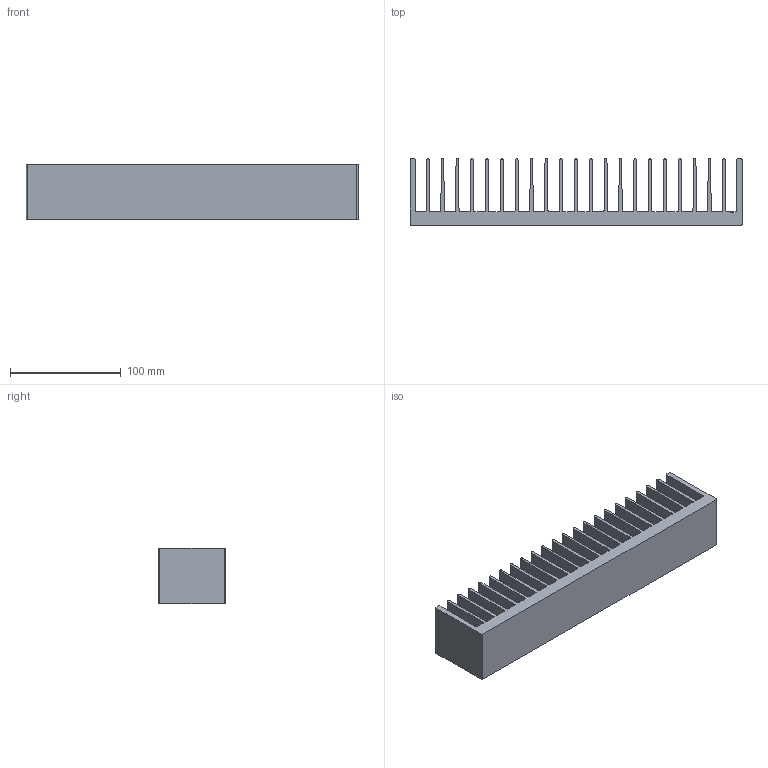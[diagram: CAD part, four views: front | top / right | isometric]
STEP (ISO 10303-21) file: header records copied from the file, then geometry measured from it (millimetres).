
FILE_DESCRIPTION (( 'STEP AP214' ), '1' );
FILE_NAME ('PR360.STEP', '2012-09-13T16:14:59', ( '' ), ( '' ), 'SwSTEP 2.0', 'SolidWorks 2012', '' );
FILE_SCHEMA (( 'AUTOMOTIVE_DESIGN' ));
Length unit declared in the file: millimetre
Products named in the file (1): PR360
Bounding box: 300 x 60 x 50 mm (x, y, z)
Volume: 339405.4 mm3; surface area: 152443.6 mm2
Topology: 1 solids, 1 shells, 152 faces, 450 edges, 300 vertices
Faces by surface type: cylinder 77, plane 75
Entity records: 5162 total; most frequent: DIRECTION 910, CARTESIAN_POINT 903, ORIENTED_EDGE 900, EDGE_CURVE 450, AXIS2_PLACEMENT_3D 307, VERTEX_POINT 300, LINE 296, VECTOR 296
